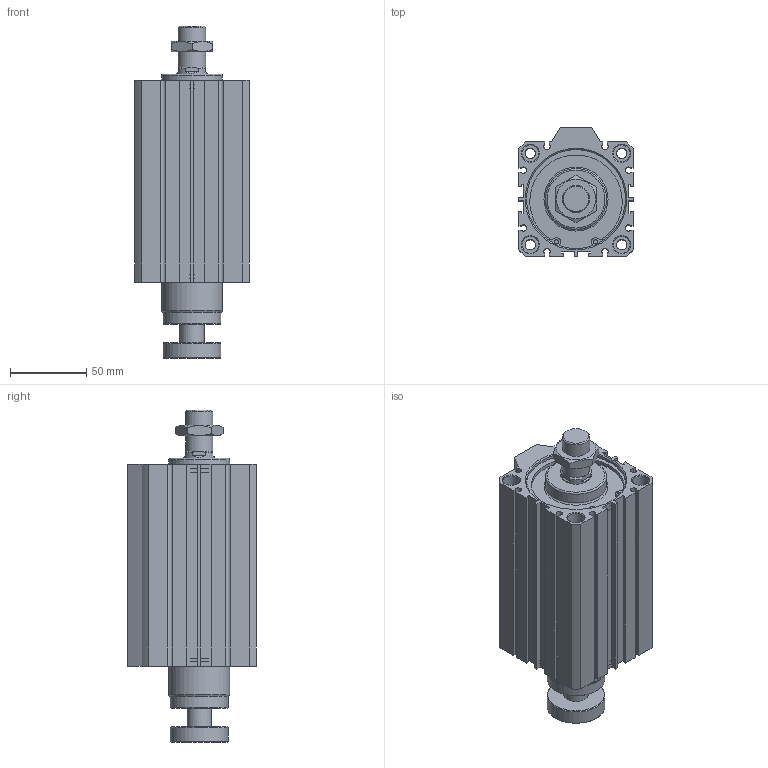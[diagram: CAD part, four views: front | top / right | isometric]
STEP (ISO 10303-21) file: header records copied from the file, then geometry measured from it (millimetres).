
FILE_DESCRIPTION((''),'2;1');
FILE_NAME('I:\3D電子目錄\氣缸\JDAR\JDAR-B\JDAR63-B\JDAR63x100-B.stp','2007-05-05T09:11:44',('662F206'),(''),'Autodesk Inventor 11','Autodesk Inventor 11','');
FILE_SCHEMA(('AUTOMOTIVE_DESIGN { 1 0 10303 214 1 1 1 1 }'));
Length unit declared in the file: millimetre
Products named in the file (3): JDAR63x100-B; JDAR63-B; R 形環 65
Assembly tree (3 placements, depth 2):
  JDAR63x100-B
    JDAR63-B
    R 形環 65  x2
Bounding box: 75 x 84.5 x 217.8 mm (x, y, z)
Volume: 752471.8 mm3; surface area: 101233.9 mm2
Topology: 3 solids, 3 shells, 201 faces, 487 edges, 317 vertices
Faces by surface type: plane 117, cylinder 56, cone 24, bspline 2, torus 2
Full cylindrical faces by diameter (mm): 2.7 x4, 3 x2, 6.8 x4, 11 x8, 16 x1, 18 x2, 20 x1, 38 x2, 40 x2, 65 x4, 68 x2
Entity records: 5539 total; most frequent: CARTESIAN_POINT 1181, DIRECTION 894, ORIENTED_EDGE 794, EDGE_CURVE 397, AXIS2_PLACEMENT_3D 324, VERTEX_POINT 291, EDGE_LOOP 280, VECTOR 246
